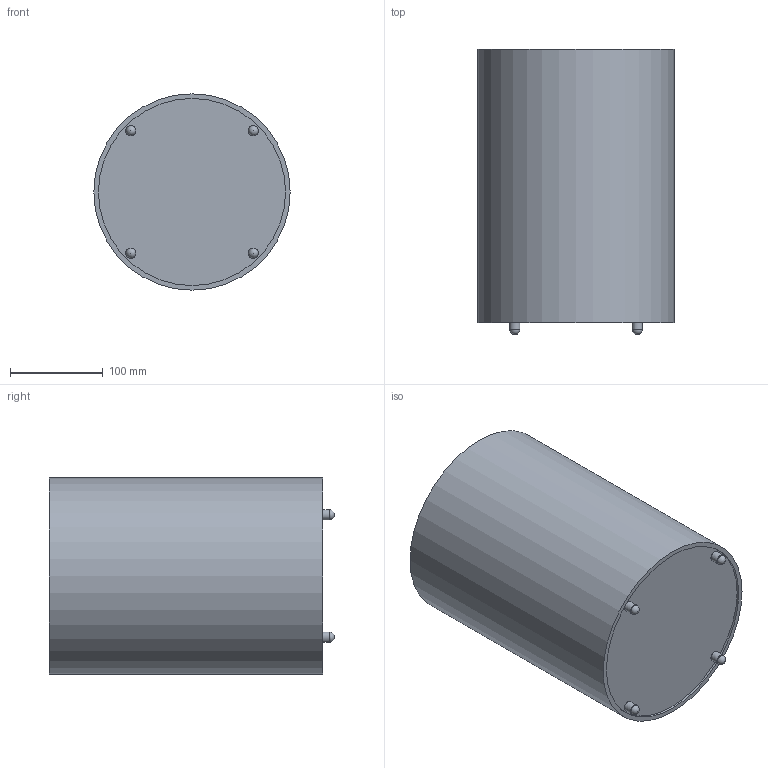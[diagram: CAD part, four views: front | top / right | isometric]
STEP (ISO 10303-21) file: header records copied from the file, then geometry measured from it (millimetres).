
FILE_DESCRIPTION(/* description */ (''),/* implementation_level */ '2;1');
FILE_NAME(/* name */ 'C:\Users\Giulia\Desktop\1560 - LENTA.stp',/* time_stamp */ '2015-04-24T14:45:44+02:00',/* author */ ('Giulia'),/* organization */ (''),/* preprocessor_version */ 'ST-DEVELOPER v15.6',/* originating_system */ 'Autodesk Inventor 2015',/* authorisation */ '');
FILE_SCHEMA (('AUTOMOTIVE_DESIGN { 1 0 10303 214 3 1 1 }'));
Length unit declared in the file: centimetre
Products named in the file (1): 1560 - LENTA
Bounding box: 212 x 307.8 x 212 mm (x, y, z)
Volume: 6886980.1 mm3; surface area: 391296.3 mm2
Topology: 2 solids, 2 shells, 30 faces, 56 edges, 36 vertices
Faces by surface type: plane 10, cone 8, cylinder 8, sphere 4
Full cylindrical faces by diameter (mm): 11 x4, 180 x1, 200 x1, 202 x1, 212 x1
Entity records: 607 total; most frequent: DIRECTION 118, CARTESIAN_POINT 87, AXIS2_PLACEMENT_3D 59, EDGE_LOOP 56, ORIENTED_EDGE 56, FACE_OUTER_BOUND 30, ADVANCED_FACE 30, CIRCLE 28
